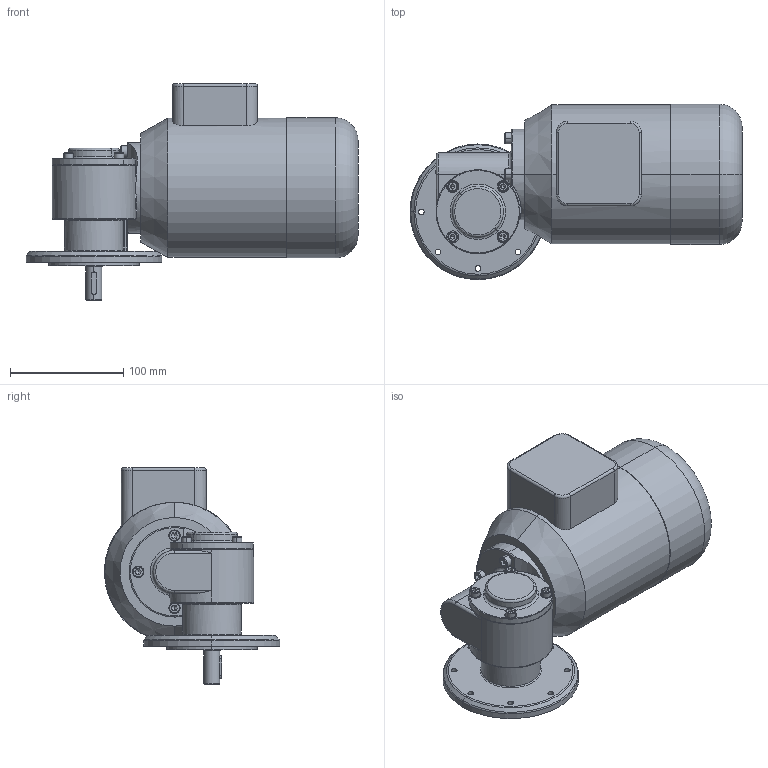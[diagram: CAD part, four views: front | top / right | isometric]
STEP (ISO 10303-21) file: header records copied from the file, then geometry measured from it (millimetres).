
FILE_DESCRIPTION (( 'STEP AP214' ), '1' );
FILE_NAME ('SN3F_120W_180W_250W_D.STEP', '2021-03-16T08:02:59', ( '' ), ( '' ), 'SwSTEP 2.0', 'SolidWorks 2019', '' );
FILE_SCHEMA (( 'AUTOMOTIVE_DESIGN' ));
Length unit declared in the file: millimetre
Products named in the file (1): SN3F_120W_180W_250W_D
Bounding box: 293.5 x 155 x 191.4 mm (x, y, z)
Surface area: 162547.5 mm2 (no closed solid volume)
Topology: 0 solids, 17 shells, 261 faces, 715 edges, 445 vertices
Faces by surface type: cylinder 95, plane 85, cone 42, torus 35, sphere 3, bspline 1
Entity records: 11488 total; most frequent: CARTESIAN_POINT 1924, DIRECTION 1521, ORIENTED_EDGE 1238, EDGE_CURVE 698, AXIS2_PLACEMENT_3D 600, VERTEX_POINT 445, CIRCLE 339, VECTOR 321
